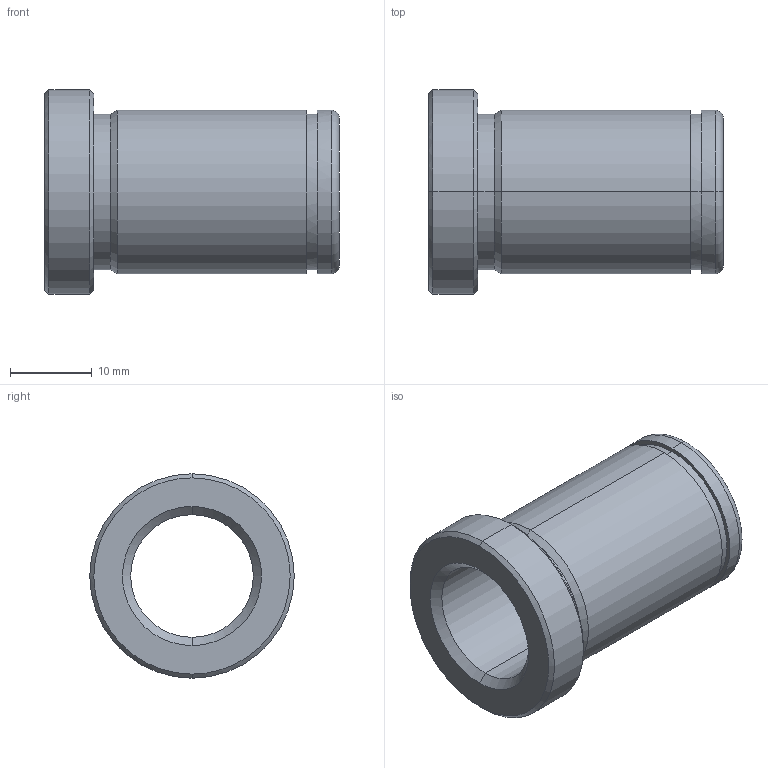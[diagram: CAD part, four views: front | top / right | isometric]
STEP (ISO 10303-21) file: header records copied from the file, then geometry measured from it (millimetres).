
FILE_DESCRIPTION(('CATIA V5 STEP Exchange'),'2;1');
FILE_NAME('C:\Users\Utente\Desktop\IO LAVORO\3D X SITO CF\X SITO\PLASTICA\553\553-15X36.stp','2021-05-21T18:38:14+00:00',('none'),('none'),'CATIA Version 5 Release 20 GA (IN-10)','CATIA V5 STEP AP203','none');
FILE_SCHEMA(('CONFIG_CONTROL_DESIGN'));
Length unit declared in the file: millimetre
Products named in the file (1): 553-15X36
Bounding box: 36 x 25 x 25 mm (x, y, z)
Volume: 5812.9 mm3; surface area: 4639.6 mm2
Topology: 1 solids, 1 shells, 28 faces, 88 edges, 64 vertices
Faces by surface type: cylinder 12, cone 8, plane 4, torus 4
Entity records: 1176 total; most frequent: CARTESIAN_POINT 359, ORIENTED_EDGE 176, DIRECTION 130, EDGE_CURVE 88, AXIS2_PLACEMENT_3D 83, VERTEX_POINT 64, CIRCLE 54, EDGE_LOOP 32
